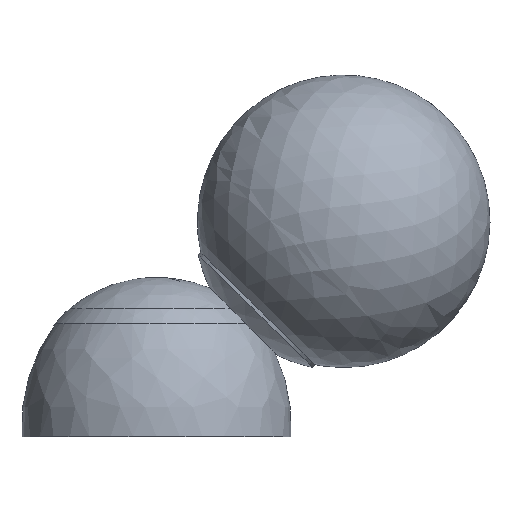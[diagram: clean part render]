
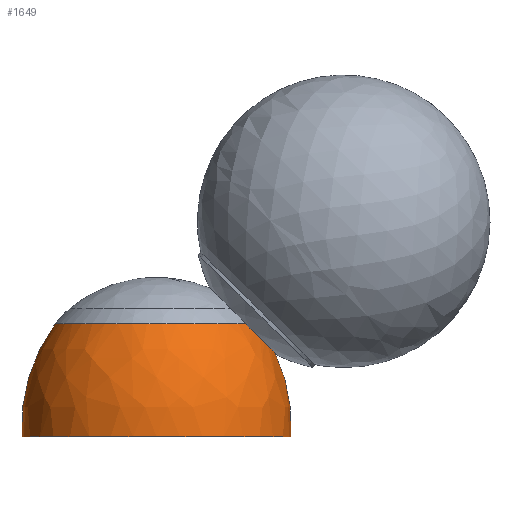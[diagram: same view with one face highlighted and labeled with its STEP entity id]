
A CAD part, left-side view. The second image highlights one B-rep face of the part: STEP entity #1649.
In plain terms, the highlighted free-form (B-spline) face has degree [2, 2] with [3, 5] control points.
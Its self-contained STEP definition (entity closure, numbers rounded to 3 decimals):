
#64=CIRCLE('',#1752,59.207);
#65=CIRCLE('',#1753,59.207);
#66=CIRCLE('',#1754,46.);
#154=(
BOUNDED_SURFACE()
B_SPLINE_SURFACE(2,2,((#4655,#4656,#4657,#4658,#4659),(#4660,#4661,#4662,
#4663,#4664),(#4665,#4666,#4667,#4668,#4669)),.UNSPECIFIED.,.F.,.F.,.F.)
B_SPLINE_SURFACE_WITH_KNOTS((3,3),(3,2,3),(-0.061,0.633),
(-1.571,0.,1.571),.UNSPECIFIED.)
GEOMETRIC_REPRESENTATION_ITEM()
RATIONAL_B_SPLINE_SURFACE(((1.,0.707,1.,0.707,1.),
(0.94,0.665,0.94,0.665,0.94),
(1.,0.707,1.,0.707,1.)))
REPRESENTATION_ITEM('')
SURFACE()
);
#200=FACE_OUTER_BOUND('',#304,.T.);
#304=EDGE_LOOP('',(#1210,#1211,#1212,#1213,#1214,#1215));
#396=B_SPLINE_CURVE_WITH_KNOTS('',3,(#3996,#3997,#3998,#3999),
 .UNSPECIFIED.,.F.,.F.,(4,4),(-57.18,-56.252),
 .UNSPECIFIED.);
#401=B_SPLINE_CURVE_WITH_KNOTS('',3,(#4117,#4118,#4119,#4120,#4121,#4122,
#4123,#4124,#4125,#4126,#4127,#4128,#4129,#4130,#4131,#4132,#4133,#4134,
#4135,#4136,#4137,#4138,#4139,#4140,#4141,#4142,#4143,#4144,#4145,#4146),
 .UNSPECIFIED.,.F.,.F.,(4,2,2,2,2,2,2,2,2,2,2,2,2,2,4),(-110.187,
-108.531,-106.876,-105.22,-103.564,
-102.139,-100.714,-99.65,-98.585,
-97.521,-96.456,-94.79,-93.124,
-91.458,-89.868),.UNSPECIFIED.);
#421=B_SPLINE_CURVE_WITH_KNOTS('',3,(#4605,#4606,#4607,#4608,#4609,#4610,
#4611,#4612,#4613),.UNSPECIFIED.,.F.,.F.,(4,1,1,1,1,1,4),(0.,0.167,
0.333,0.5,0.667,0.833,1.),
 .UNSPECIFIED.);
#676=VERTEX_POINT('',#3974);
#677=VERTEX_POINT('',#3995);
#678=VERTEX_POINT('',#4002);
#699=VERTEX_POINT('',#4565);
#700=VERTEX_POINT('',#4641);
#701=VERTEX_POINT('',#4642);
#845=EDGE_CURVE('',#677,#676,#396,.T.);
#853=EDGE_CURVE('',#678,#677,#401,.T.);
#885=EDGE_CURVE('',#676,#699,#421,.T.);
#888=EDGE_CURVE('',#699,#700,#64,.T.);
#889=EDGE_CURVE('',#701,#678,#65,.T.);
#890=EDGE_CURVE('',#701,#700,#66,.T.);
#1210=ORIENTED_EDGE('',*,*,#890,.F.);
#1211=ORIENTED_EDGE('',*,*,#889,.T.);
#1212=ORIENTED_EDGE('',*,*,#853,.T.);
#1213=ORIENTED_EDGE('',*,*,#845,.T.);
#1214=ORIENTED_EDGE('',*,*,#885,.T.);
#1215=ORIENTED_EDGE('',*,*,#888,.T.);
#1649=ADVANCED_FACE('',(#200),#154,.F.);
#1752=AXIS2_PLACEMENT_3D('',#4644,#1932,#1933);
#1753=AXIS2_PLACEMENT_3D('',#4645,#1934,#1935);
#1754=AXIS2_PLACEMENT_3D('',#4670,#1936,#1937);
#1932=DIRECTION('center_axis',(-1.,0.,0.));
#1933=DIRECTION('ref_axis',(0.,1.,0.));
#1934=DIRECTION('center_axis',(-1.,0.,0.));
#1935=DIRECTION('ref_axis',(0.,-1.,0.));
#1936=DIRECTION('center_axis',(0.,0.,
-1.));
#1937=DIRECTION('ref_axis',(1.,0.,0.));
#3974=CARTESIAN_POINT('',(-16.219,-30.603,38.609));
#3995=CARTESIAN_POINT('',(-15.926,-31.618,37.539));
#3996=CARTESIAN_POINT('Ctrl Pts',(-15.926,-31.618,37.539));
#3997=CARTESIAN_POINT('Ctrl Pts',(-16.044,-31.279,37.894));
#3998=CARTESIAN_POINT('Ctrl Pts',(-16.142,-30.94,38.252));
#3999=CARTESIAN_POINT('Ctrl Pts',(-16.219,-30.603,38.609));
#4002=CARTESIAN_POINT('',(0.,-40.44,28.861));
#4117=CARTESIAN_POINT('Ctrl Pts',(0.,-40.44,
28.861));
#4118=CARTESIAN_POINT('Ctrl Pts',(-0.552,-40.44,
28.861));
#4119=CARTESIAN_POINT('Ctrl Pts',(-1.129,-40.418,28.882));
#4120=CARTESIAN_POINT('Ctrl Pts',(-2.298,-40.325,28.974));
#4121=CARTESIAN_POINT('Ctrl Pts',(-2.891,-40.254,29.044));
#4122=CARTESIAN_POINT('Ctrl Pts',(-4.061,-40.062,29.233));
#4123=CARTESIAN_POINT('Ctrl Pts',(-4.639,-39.941,29.352));
#4124=CARTESIAN_POINT('Ctrl Pts',(-5.749,-39.661,29.627));
#4125=CARTESIAN_POINT('Ctrl Pts',(-6.281,-39.502,29.784));
#4126=CARTESIAN_POINT('Ctrl Pts',(-7.207,-39.185,30.096));
#4127=CARTESIAN_POINT('Ctrl Pts',(-7.667,-39.01,30.268));
#4128=CARTESIAN_POINT('Ctrl Pts',(-8.561,-38.627,30.645));
#4129=CARTESIAN_POINT('Ctrl Pts',(-8.995,-38.419,30.849));
#4130=CARTESIAN_POINT('Ctrl Pts',(-9.664,-38.07,31.193));
#4131=CARTESIAN_POINT('Ctrl Pts',(-9.957,-37.906,31.353));
#4132=CARTESIAN_POINT('Ctrl Pts',(-10.54,-37.558,31.696));
#4133=CARTESIAN_POINT('Ctrl Pts',(-10.83,-37.373,31.878));
#4134=CARTESIAN_POINT('Ctrl Pts',(-11.391,-36.989,32.256));
#4135=CARTESIAN_POINT('Ctrl Pts',(-11.662,-36.79,32.451));
#4136=CARTESIAN_POINT('Ctrl Pts',(-12.175,-36.389,32.846));
#4137=CARTESIAN_POINT('Ctrl Pts',(-12.417,-36.187,33.044));
#4138=CARTESIAN_POINT('Ctrl Pts',(-12.988,-35.682,33.541));
#4139=CARTESIAN_POINT('Ctrl Pts',(-13.332,-35.348,33.87));
#4140=CARTESIAN_POINT('Ctrl Pts',(-13.986,-34.641,34.565));
#4141=CARTESIAN_POINT('Ctrl Pts',(-14.296,-34.269,34.931));
#4142=CARTESIAN_POINT('Ctrl Pts',(-14.865,-33.506,35.681));
#4143=CARTESIAN_POINT('Ctrl Pts',(-15.123,-33.114,36.067));
#4144=CARTESIAN_POINT('Ctrl Pts',(-15.57,-32.351,36.818));
#4145=CARTESIAN_POINT('Ctrl Pts',(-15.762,-31.979,37.184));
#4146=CARTESIAN_POINT('Ctrl Pts',(-15.926,-31.618,37.539));
#4565=CARTESIAN_POINT('',(0.,34.635,38.609));
#4605=CARTESIAN_POINT('Ctrl Pts',(-16.219,-30.603,38.609));
#4606=CARTESIAN_POINT('Ctrl Pts',(-20.794,-28.26,38.609));
#4607=CARTESIAN_POINT('Ctrl Pts',(-28.649,-21.378,38.609));
#4608=CARTESIAN_POINT('Ctrl Pts',(-35.087,-7.069,38.609));
#4609=CARTESIAN_POINT('Ctrl Pts',(-34.723,8.632,38.609));
#4610=CARTESIAN_POINT('Ctrl Pts',(-27.692,22.676,38.609));
#4611=CARTESIAN_POINT('Ctrl Pts',(-15.303,32.305,38.609));
#4612=CARTESIAN_POINT('Ctrl Pts',(-5.14,34.707,38.609));
#4613=CARTESIAN_POINT('Ctrl Pts',(0.,34.635,
38.609));
#4641=CARTESIAN_POINT('',(0.,46.,0.));
#4642=CARTESIAN_POINT('',(0.,-46.,0.));
#4644=CARTESIAN_POINT('Origin',(0.,-13.098,
3.581));
#4645=CARTESIAN_POINT('Origin',(0.,13.098,3.581));
#4655=CARTESIAN_POINT('Ctrl Pts',(0.,46.,
0.));
#4656=CARTESIAN_POINT('Ctrl Pts',(-46.,46.,0.));
#4657=CARTESIAN_POINT('Ctrl Pts',(-46.,0.,
0.));
#4658=CARTESIAN_POINT('Ctrl Pts',(-46.,-46.,0.));
#4659=CARTESIAN_POINT('Ctrl Pts',(0.,-46.,
0.));
#4660=CARTESIAN_POINT('Ctrl Pts',(0.,47.295,
21.365));
#4661=CARTESIAN_POINT('Ctrl Pts',(-47.295,47.295,21.365));
#4662=CARTESIAN_POINT('Ctrl Pts',(-47.295,0.,
21.365));
#4663=CARTESIAN_POINT('Ctrl Pts',(-47.295,-47.295,21.365));
#4664=CARTESIAN_POINT('Ctrl Pts',(0.,-47.295,
21.365));
#4665=CARTESIAN_POINT('Ctrl Pts',(0.,34.628,
38.619));
#4666=CARTESIAN_POINT('Ctrl Pts',(-34.628,34.628,38.619));
#4667=CARTESIAN_POINT('Ctrl Pts',(-34.628,0.,
38.619));
#4668=CARTESIAN_POINT('Ctrl Pts',(-34.628,-34.628,38.619));
#4669=CARTESIAN_POINT('Ctrl Pts',(0.,-34.628,
38.619));
#4670=CARTESIAN_POINT('Origin',(0.,0.,
0.));
